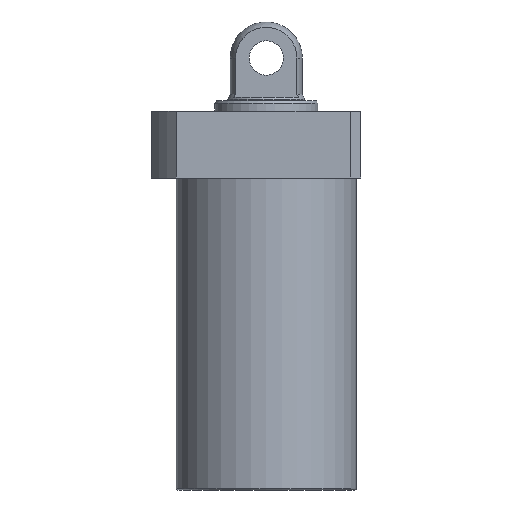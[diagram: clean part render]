
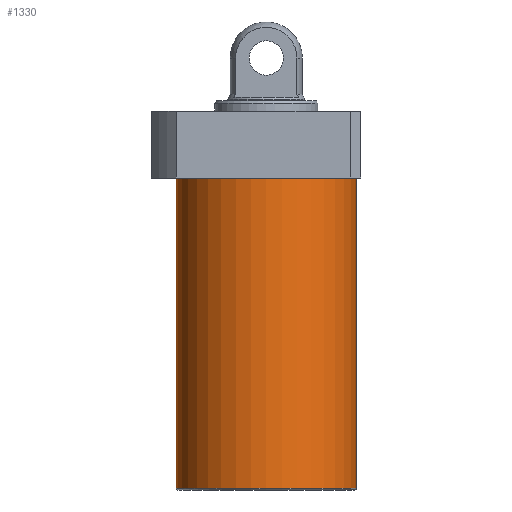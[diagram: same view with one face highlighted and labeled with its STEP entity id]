
A CAD part, front view. The second image highlights one B-rep face of the part: STEP entity #1330.
In plain terms, the highlighted cylindrical face has radius 52.5 mm (diameter 105 mm), a partial arc.
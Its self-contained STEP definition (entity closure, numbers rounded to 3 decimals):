
#8 = CIRCLE ( 'NONE', #1085, 52.5 ) ;
#69 = EDGE_CURVE ( 'NONE', #660, #1426, #8, .T. ) ;
#76 = FACE_OUTER_BOUND ( 'NONE', #1433, .T. ) ;
#117 = EDGE_CURVE ( 'NONE', #660, #364, #248, .T. ) ;
#134 = CARTESIAN_POINT ( 'NONE',  ( 0., 0., -19.5 ) ) ;
#177 = AXIS2_PLACEMENT_3D ( 'NONE', #1159, #1036, #619 ) ;
#217 = VECTOR ( 'NONE', #776, 1000. ) ;
#248 = LINE ( 'NONE', #1207, #389 ) ;
#275 = ORIENTED_EDGE ( 'NONE', *, *, #117, .F. ) ;
#361 = CARTESIAN_POINT ( 'NONE',  ( 52.5, 0., -200.5 ) ) ;
#364 = VERTEX_POINT ( 'NONE', #909 ) ;
#389 = VECTOR ( 'NONE', #1068, 1000. ) ;
#408 = DIRECTION ( 'NONE',  ( 0., 0., -1. ) ) ;
#428 = ORIENTED_EDGE ( 'NONE', *, *, #69, .T. ) ;
#538 = CARTESIAN_POINT ( 'NONE',  ( 52.5, 0., -201.5 ) ) ;
#552 = EDGE_CURVE ( 'NONE', #588, #364, #853, .T. ) ;
#588 = VERTEX_POINT ( 'NONE', #1511 ) ;
#619 = DIRECTION ( 'NONE',  ( 1., 0., 0. ) ) ;
#660 = VERTEX_POINT ( 'NONE', #1706 ) ;
#674 = CARTESIAN_POINT ( 'NONE',  ( 0., 0., -200.5 ) ) ;
#776 = DIRECTION ( 'NONE',  ( 0., 0., 1. ) ) ;
#853 = CIRCLE ( 'NONE', #1747, 52.5 ) ;
#904 = ORIENTED_EDGE ( 'NONE', *, *, #1528, .T. ) ;
#909 = CARTESIAN_POINT ( 'NONE',  ( -52.5, 0., -19.5 ) ) ;
#922 = DIRECTION ( 'NONE',  ( 0., 0., 1. ) ) ;
#1036 = DIRECTION ( 'NONE',  ( 0., 0., 1. ) ) ;
#1068 = DIRECTION ( 'NONE',  ( 0., 0., 1. ) ) ;
#1085 = AXIS2_PLACEMENT_3D ( 'NONE', #674, #922, #1492 ) ;
#1159 = CARTESIAN_POINT ( 'NONE',  ( 0., 0., -201.5 ) ) ;
#1171 = CYLINDRICAL_SURFACE ( 'NONE', #177, 52.5 ) ;
#1207 = CARTESIAN_POINT ( 'NONE',  ( -52.5, 0., -201.5 ) ) ;
#1275 = ORIENTED_EDGE ( 'NONE', *, *, #552, .T. ) ;
#1330 = ADVANCED_FACE ( 'NONE', ( #76 ), #1171, .T. ) ;
#1368 = DIRECTION ( 'NONE',  ( 1., 0., 0. ) ) ;
#1426 = VERTEX_POINT ( 'NONE', #361 ) ;
#1427 = LINE ( 'NONE', #538, #217 ) ;
#1433 = EDGE_LOOP ( 'NONE', ( #275, #428, #904, #1275 ) ) ;
#1492 = DIRECTION ( 'NONE',  ( -1., 0., 0. ) ) ;
#1511 = CARTESIAN_POINT ( 'NONE',  ( 52.5, 0., -19.5 ) ) ;
#1528 = EDGE_CURVE ( 'NONE', #1426, #588, #1427, .T. ) ;
#1706 = CARTESIAN_POINT ( 'NONE',  ( -52.5, 0., -200.5 ) ) ;
#1747 = AXIS2_PLACEMENT_3D ( 'NONE', #134, #408, #1368 ) ;
